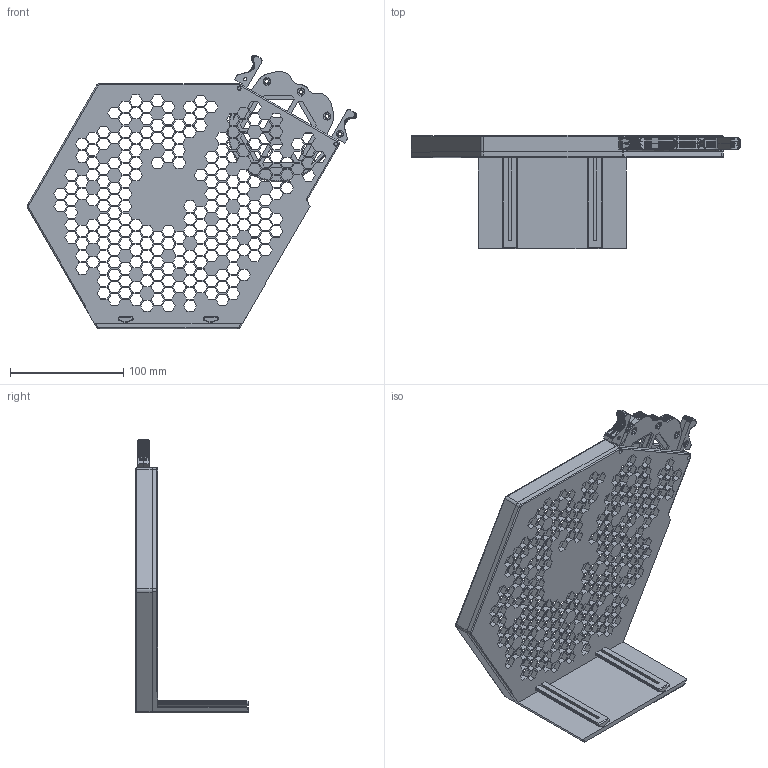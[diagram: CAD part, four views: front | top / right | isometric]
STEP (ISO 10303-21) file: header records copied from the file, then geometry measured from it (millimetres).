
FILE_DESCRIPTION(/* description */ (''),/* implementation_level */ '2;1');
FILE_NAME(/* name */ 'Spool Unit Rollers V12.step',/* time_stamp */ '2025-10-26T19:31:49Z',/* author */ (''),/* organization */ (''),/* preprocessor_version */ 'ST-DEVELOPER v20.1',/* originating_system */ 'Autodesk Translation Framework v14.17.0.0',/* authorisation */ '');
FILE_SCHEMA (('AUTOMOTIVE_DESIGN { 1 0 10303 214 3 1 1 }'));
Products named in the file (5): Hex Spool Holder with buffer; Spool Holder; Buffer; segment-R4(1); wheel-R4(1)
Assembly tree (4 placements, depth 2):
  Hex Spool Holder with buffer
    Spool Holder
    Buffer
    segment-R4(1)
    wheel-R4(1)
Bounding box: 290.74 x 99.52 x 241.83 mm (x, y, z)
Volume: 320825.8 mm3; surface area: 237811.5 mm2
Topology: 5 solids, 5 shells, 14403 faces, 28799 edges, 14439 vertices
Faces by surface type: plane 14340, cylinder 48, torus 13, bspline 2
Full cylindrical faces by diameter (mm): 2.9 x7, 3.5 x7, 6 x5
Entity records: 348181 total; most frequent: CARTESIAN_POINT 57812, DIRECTION 57721, ORIENTED_EDGE 57598, EDGE_CURVE 28799, LINE 28681, VECTOR 28681, EDGE_LOOP 15428, AXIS2_PLACEMENT_3D 14520
